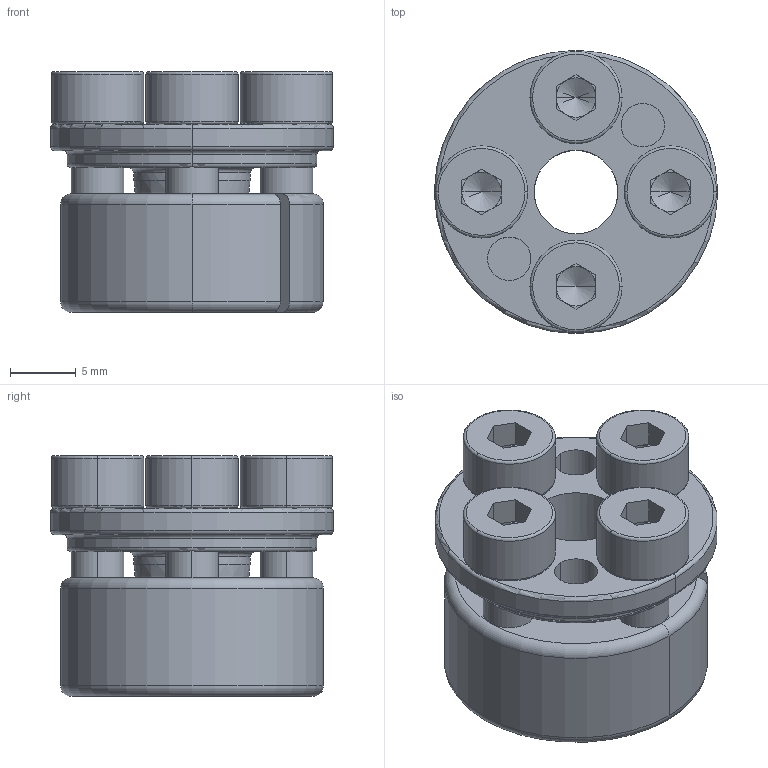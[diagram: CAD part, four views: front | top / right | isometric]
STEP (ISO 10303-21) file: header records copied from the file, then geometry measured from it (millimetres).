
FILE_DESCRIPTION (( 'STEP AP203' ), '1' );
FILE_NAME ('SAPL-A-6.35X20 ASS''Y.STEP', '2014-09-03T08:04:14', ( 'Z77' ), ( '' ), 'SwSTEP 2.0', 'SolidWorks 2013', '' );
FILE_SCHEMA (( 'CONFIG_CONTROL_DESIGN' ));
Length unit declared in the file: millimetre
Products named in the file (1): SAPL-A-6.35X20 ASS''Y
Bounding box: 21.5 x 21.5 x 18.3 mm (x, y, z)
Volume: 3921.7 mm3; surface area: 3342 mm2
Topology: 1 solids, 1 shells, 218 faces, 557 edges, 330 vertices
Faces by surface type: plane 83, torus 57, cylinder 55, cone 23
Entity records: 6817 total; most frequent: CARTESIAN_POINT 1364, DIRECTION 1222, ORIENTED_EDGE 1098, EDGE_CURVE 549, AXIS2_PLACEMENT_3D 508, VERTEX_POINT 330, CIRCLE 289, EDGE_LOOP 237
